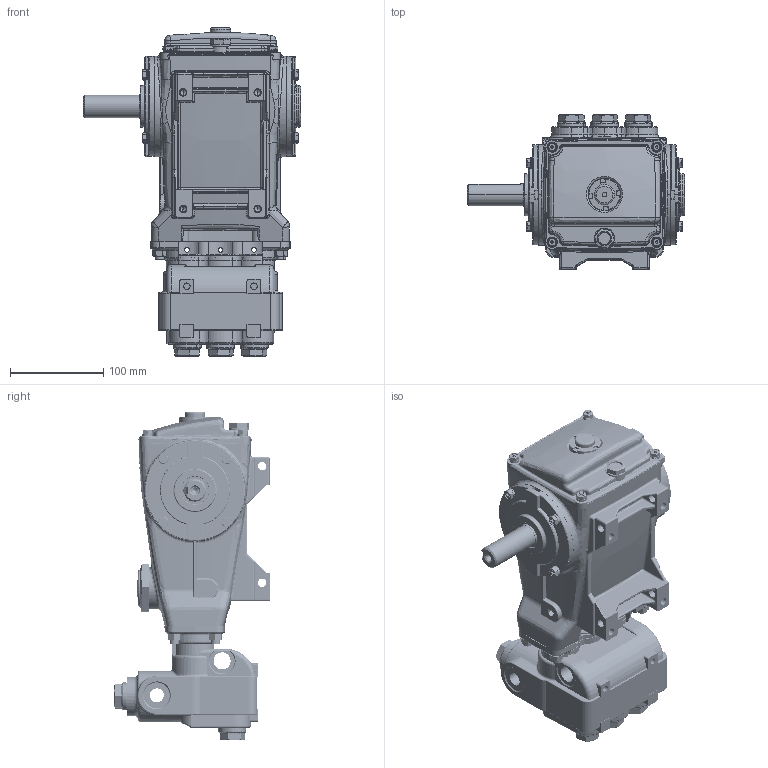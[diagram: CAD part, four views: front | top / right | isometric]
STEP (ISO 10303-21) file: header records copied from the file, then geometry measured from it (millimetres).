
FILE_DESCRIPTION (( 'STEP AP214' ), '1' );
FILE_NAME ('70.STEP', '2012-11-23T10:42:38', ( '' ), ( '' ), 'SwSTEP 2.0', 'SolidWorks 2012', '' );
FILE_SCHEMA (( 'AUTOMOTIVE_DESIGN' ));
Length unit declared in the file: millimetre
Products named in the file (1): 70
Bounding box: 233 x 166.5 x 352.3 mm (x, y, z)
Volume: 2350306.7 mm3; surface area: 476481.7 mm2
Topology: 1 solids, 40 shells, 4287 faces, 10739 edges, 6701 vertices
Faces by surface type: plane 1699, cylinder 1016, bspline 733, torus 434, cone 372, sphere 33
Entity records: 195092 total; most frequent: CARTESIAN_POINT 67911, ORIENTED_EDGE 21308, DIRECTION 18912, EDGE_CURVE 10654, AXIS2_PLACEMENT_3D 6937, VERTEX_POINT 6699, LINE 5038, VECTOR 5038
